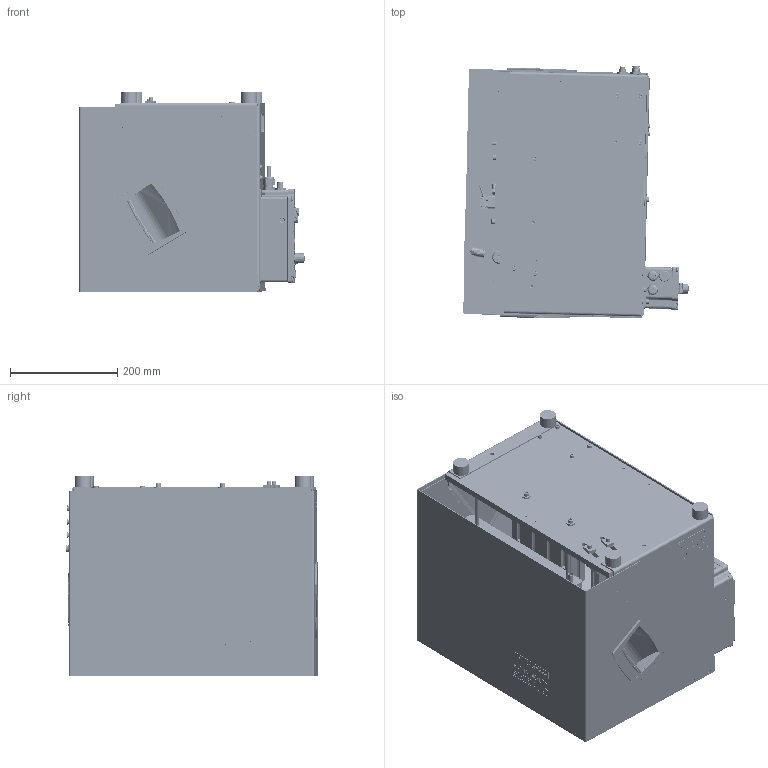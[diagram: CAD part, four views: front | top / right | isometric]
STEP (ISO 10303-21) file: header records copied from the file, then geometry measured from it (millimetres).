
FILE_DESCRIPTION(/* description */ (''),/* implementation_level */ '2;1');
FILE_NAME(/* name */ 'G:\Modelle für Marketing\3Ds Parasolid\Teil 2\3D_Parasolid_automatic_feed_unit_step_feeder_STF8010_series.x_b.ipt.stp',/* time_stamp */ '2016-07-28T11:56:43+02:00',/* author */ ('Wolf'),/* organization */ (''),/* preprocessor_version */ 'ST-DEVELOPER v15.2',/* originating_system */ 'Autodesk Inventor 2014',/* authorisation */ '');
FILE_SCHEMA (('AUTOMOTIVE_DESIGN { 1 0 10303 214 3 1 1 }'));
Products named in the file (1): 3D_Parasolid_automatic_feed_unit_step_feeder_STF8010_series.x_b
Bounding box: 419.87 x 470.29 x 372 mm (x, y, z)
Volume: 8752876.2 mm3; surface area: 3177262 mm2
Topology: 48 solids, 229 shells, 15403 faces, 41396 edges, 27145 vertices
Faces by surface type: plane 10865, cylinder 2125, bspline 1364, cone 779, torus 235, sphere 35
Full cylindrical faces by diameter (mm): 0.5 x1, 1 x4, 1.2 x6, 1.5 x4, 1.6 x2, 1.9 x4, 2.013 x3, 2.2 x4, 2.4 x2, 2.459 x2, 2.5 x24, 2.54 x1, 2.6 x3, 3 x12, 3.03 x2, 3.2 x4, 3.242 x32, 3.5 x3, 3.6 x1, 3.8 x2, 3.99 x2, 4 x79, 4.019 x12, 4.02 x12, 4.134 x34, 4.2 x1, 4.3 x7, 4.4 x4, 4.5 x25, 4.51 x1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
Entity records: 510934 total; most frequent: CARTESIAN_POINT 129234, ORIENTED_EDGE 77816, DIRECTION 68331, EDGE_CURVE 38908, LINE 29193, VECTOR 29193, VERTEX_POINT 26326, AXIS2_PLACEMENT_3D 19569
